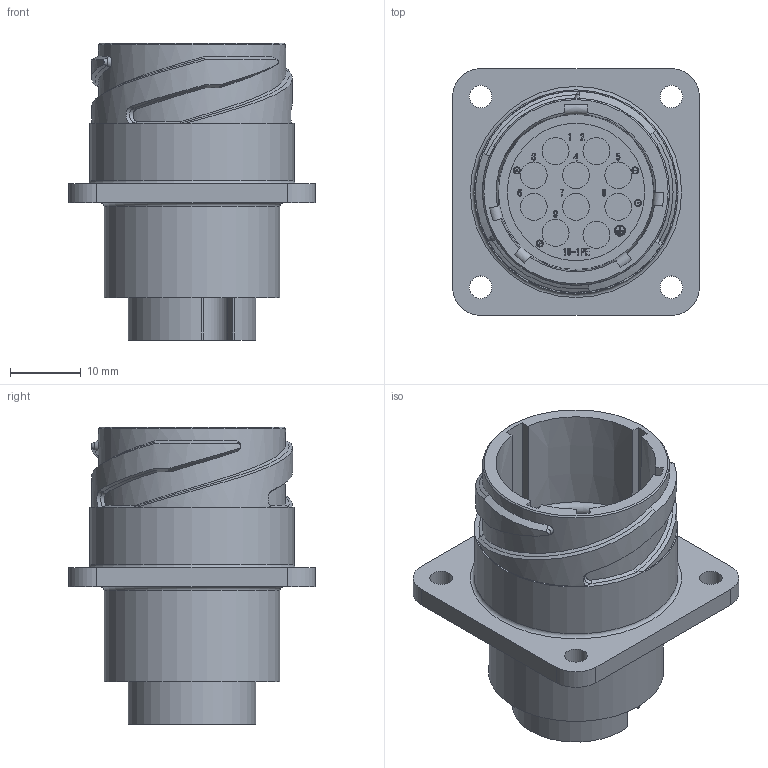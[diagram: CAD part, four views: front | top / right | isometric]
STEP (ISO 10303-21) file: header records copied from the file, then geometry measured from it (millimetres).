
FILE_DESCRIPTION (( 'STEP AP203' ), '1' );
FILE_NAME ('CE01-2A18-1PC-D0(R1).STEP', '2020-06-30T02:59:48', ( '' ), ( '' ), 'SwSTEP 2.0', 'SolidWorks 2018', '' );
FILE_SCHEMA (( 'CONFIG_CONTROL_DESIGN' ));
Products named in the file (1): CE01-2A18-1PC-D0(R1)
Bounding box: 34.92 x 34.92 x 42.1 mm (x, y, z)
Volume: 15012.5 mm3; surface area: 9029.1 mm2
Topology: 1 solids, 1 shells, 744 faces, 1942 edges, 1288 vertices
Faces by surface type: bspline 342, plane 312, cylinder 71, cone 16, torus 3
Full cylindrical faces by diameter (mm): 0.8 x4, 1 x4, 1.56 x2, 3.2 x4, 3.8 x19, 19.45 x1, 24.85 x1, 25.02 x1, 26.47 x1, 28.87 x1
Entity records: 39481 total; most frequent: CARTESIAN_POINT 23619, ORIENTED_EDGE 3780, DIRECTION 2132, EDGE_CURVE 1890, VERTEX_POINT 1280, LINE 986, VECTOR 986, EDGE_LOOP 882
